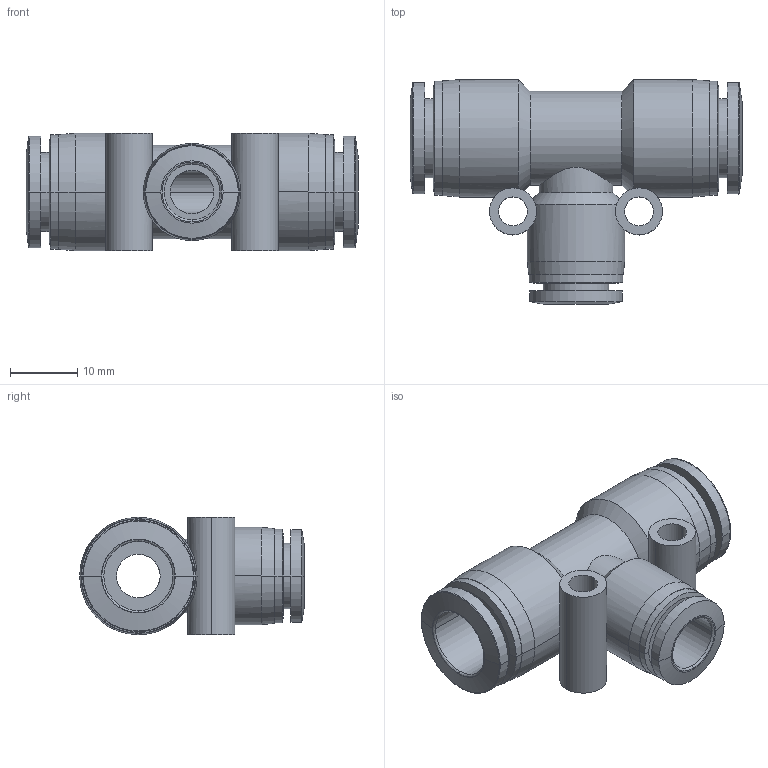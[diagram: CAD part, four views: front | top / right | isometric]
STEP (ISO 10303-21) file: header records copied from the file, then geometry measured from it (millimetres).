
FILE_DESCRIPTION (( 'STEP AP203' ), '1' );
FILE_NAME ('FRT08-10.STEP', '2020-05-12T19:24:47', ( '' ), ( '' ), 'SwSTEP 2.0', 'SolidWorks 2019', '' );
FILE_SCHEMA (( 'CONFIG_CONTROL_DESIGN' ));
Length unit declared in the file: millimetre
Products named in the file (1): FRT08-10
Bounding box: 49.5 x 33.5 x 17.5 mm (x, y, z)
Volume: 8628.6 mm3; surface area: 7352.3 mm2
Topology: 1 solids, 1 shells, 99 faces, 240 edges, 152 vertices
Faces by surface type: cylinder 46, cone 24, plane 19, bspline 6, torus 4
Entity records: 3846 total; most frequent: CARTESIAN_POINT 1399, DIRECTION 530, ORIENTED_EDGE 480, EDGE_CURVE 240, AXIS2_PLACEMENT_3D 228, VERTEX_POINT 152, CIRCLE 134, EDGE_LOOP 120
